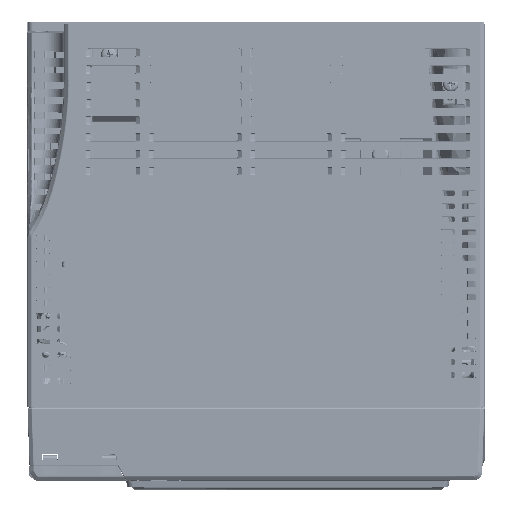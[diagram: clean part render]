
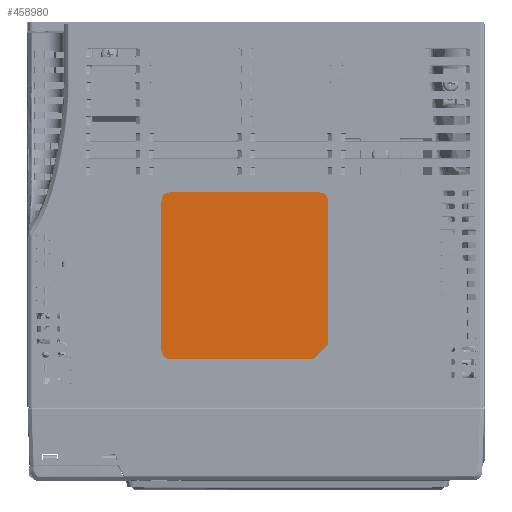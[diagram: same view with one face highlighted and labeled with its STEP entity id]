
A CAD part, front view. The second image highlights one B-rep face of the part: STEP entity #458980.
In plain terms, the highlighted planar face has unit normal (0, -1, 0) as drawn and (0, 1, 0) by its records, which use the part's own axes.
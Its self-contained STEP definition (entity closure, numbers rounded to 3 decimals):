
#458726=CARTESIAN_POINT('',(56.,0.25,-3.));
#458727=DIRECTION('',(0.,1.,0.));
#458728=DIRECTION('',(0.,0.,1.));
#458729=AXIS2_PLACEMENT_3D('',#458726,#458727,#458728);
#458734=DIRECTION('',(1.,0.,0.));
#458735=VECTOR('',#458734,51.);
#458736=CARTESIAN_POINT('',(5.,0.25,0.));
#458737=LINE('',#458736,#458735);
#458741=DIRECTION('',(0.707,0.,0.707));
#458742=VECTOR('',#458741,7.071);
#458743=CARTESIAN_POINT('',(0.,0.25,-5.));
#458744=LINE('',#458743,#458742);
#458748=DIRECTION('',(0.,0.,1.));
#458749=VECTOR('',#458748,51.);
#458750=CARTESIAN_POINT('',(0.,0.25,-56.));
#458751=LINE('',#458750,#458749);
#458755=CARTESIAN_POINT('',(3.,0.25,-56.));
#458756=DIRECTION('',(0.,1.,0.));
#458757=DIRECTION('',(0.,0.,-1.));
#458758=AXIS2_PLACEMENT_3D('',#458755,#458756,#458757);
#458763=DIRECTION('',(-1.,0.,0.));
#458764=VECTOR('',#458763,53.);
#458765=CARTESIAN_POINT('',(56.,0.25,-59.));
#458766=LINE('',#458765,#458764);
#458770=CARTESIAN_POINT('',(56.,0.25,-56.));
#458771=DIRECTION('',(0.,1.,0.));
#458772=DIRECTION('',(1.,0.,0.));
#458773=AXIS2_PLACEMENT_3D('',#458770,#458771,#458772);
#458778=DIRECTION('',(0.,0.,-1.));
#458779=VECTOR('',#458778,53.);
#458780=CARTESIAN_POINT('',(59.,0.25,-3.));
#458781=LINE('',#458780,#458779);
#458789=CARTESIAN_POINT('',(0.,0.25,-5.));
#458790=VERTEX_POINT('',#458789);
#458791=CARTESIAN_POINT('',(5.,0.25,0.));
#458792=VERTEX_POINT('',#458791);
#458797=CARTESIAN_POINT('',(56.,0.25,0.));
#458798=VERTEX_POINT('',#458797);
#458799=CARTESIAN_POINT('',(59.,0.25,-3.));
#458800=VERTEX_POINT('',#458799);
#458805=CARTESIAN_POINT('',(59.,0.25,-56.));
#458806=VERTEX_POINT('',#458805);
#458807=CARTESIAN_POINT('',(56.,0.25,-59.));
#458808=VERTEX_POINT('',#458807);
#458813=CARTESIAN_POINT('',(3.,0.25,-59.));
#458814=VERTEX_POINT('',#458813);
#458815=CARTESIAN_POINT('',(0.,0.25,-56.));
#458816=VERTEX_POINT('',#458815);
#458965=CARTESIAN_POINT('',(0.,0.25,0.));
#458966=DIRECTION('',(0.,1.,0.));
#458967=DIRECTION('',(1.,0.,0.));
#458968=AXIS2_PLACEMENT_3D('',#458965,#458966,#458967);
#458969=PLANE('',#458968);
#458970=ORIENTED_EDGE('',*,*,#458861,.F.);
#458971=ORIENTED_EDGE('',*,*,#458877,.F.);
#458972=ORIENTED_EDGE('',*,*,#458890,.F.);
#458973=ORIENTED_EDGE('',*,*,#458903,.F.);
#458974=ORIENTED_EDGE('',*,*,#458918,.F.);
#458975=ORIENTED_EDGE('',*,*,#458931,.F.);
#458976=ORIENTED_EDGE('',*,*,#458946,.F.);
#458977=ORIENTED_EDGE('',*,*,#458958,.F.);
#458978=EDGE_LOOP('',(#458970,#458971,#458972,#458973,#458974,#458975,#458976,
#458977));
#458979=FACE_OUTER_BOUND('',#458978,.F.);
#458980=ADVANCED_FACE('',(#458979),#458969,.T.);
#458730=CIRCLE('',#458729,3.);
#458759=CIRCLE('',#458758,3.);
#458774=CIRCLE('',#458773,3.);
#458861=EDGE_CURVE('',#458798,#458800,#458730,.T.);
#458877=EDGE_CURVE('',#458792,#458798,#458737,.T.);
#458890=EDGE_CURVE('',#458790,#458792,#458744,.T.);
#458903=EDGE_CURVE('',#458816,#458790,#458751,.T.);
#458918=EDGE_CURVE('',#458814,#458816,#458759,.T.);
#458931=EDGE_CURVE('',#458808,#458814,#458766,.T.);
#458946=EDGE_CURVE('',#458806,#458808,#458774,.T.);
#458958=EDGE_CURVE('',#458800,#458806,#458781,.T.);
